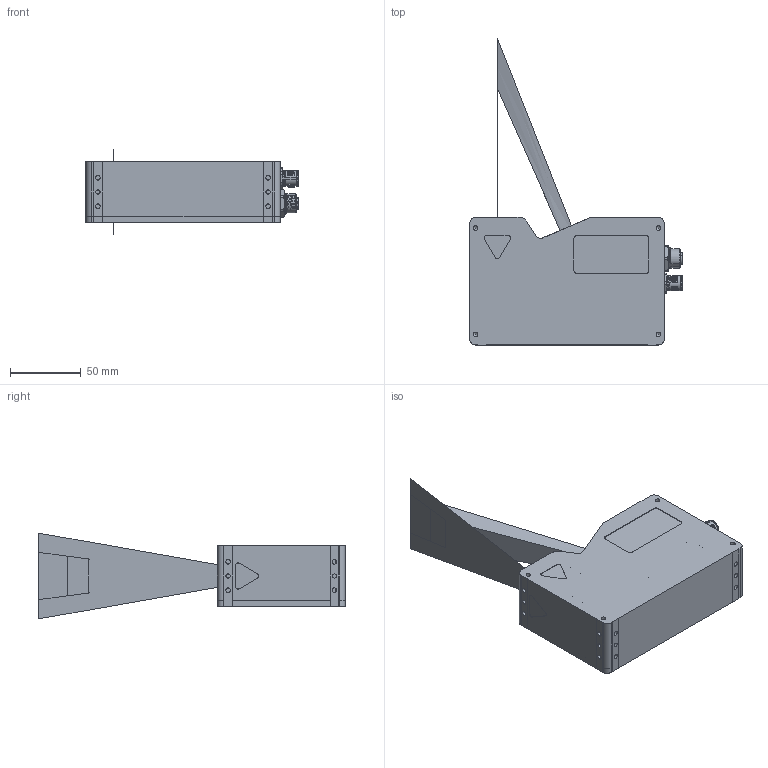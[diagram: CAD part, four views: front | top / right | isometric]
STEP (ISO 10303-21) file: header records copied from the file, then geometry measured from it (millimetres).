
FILE_DESCRIPTION(/* description */ (''),/* implementation_level */ '2;1');
FILE_NAME(/* name */ 'C6-S7-1280-CS-23-29-106-SX-1G-XXX-XX_Public.iam.stp',/* time_stamp */ '2025-06-03T14:37:38+02:00',/* author */ ('AT'),/* organization */ ('Automation Technology GmbH'),/* preprocessor_version */ 'ST-DEVELOPER v20',/* originating_system */ 'Autodesk Inventor 2024',/* authorisation */ '');
FILE_SCHEMA (('AUTOMOTIVE_DESIGN { 1 0 10303 214 3 1 1 }'));
Products named in the file (20): C6-S7-1280-CS-23-29-106-SX-1G-XXX-XX_Public; Screw GB/T 2672 M2,5 x 4; Screw GB/T 2672 M2,5 x 6; 202202010-028; 202202010-002; 202202010-009; 202202010-010; EO: 48-924; Glasscheibe33x1; C6-S7-1280-CS-23-29-106-SX-1G-XXX-XX_Strahlengang; 1292.6001; SACC-DSI-FS-8CON-L180_SCO SH_1553860-01; SACC-DSI-FS-8CON-L180_SCO SH_1553860_Stecker; SACC-DSI-FS-8CON-L180_SCO SH_1553860_Mutter; SACC-DSI-FS-8CON-L180_SCO SH_1553860_Kunststoffeinsatz; SACC-DSI-MS-17CON-M12 SCO SH_1437119-01; SACC-DSI-MS-17CON-M12 SCO SH_1437119_Stecker; SACC-DSI-MS-17CON-M12 SCO SH_1437119_Mutter; SACC-DSI-MS-17CON-M12 SCO SH_1437119_Pins; SACC-DSI-MS-17CON-M12 SCO SH_1437119_Kunststoffeinsatz
Assembly tree (36 placements, depth 3):
  C6-S7-1280-CS-23-29-106-SX-1G-XXX-XX_Public
    Screw GB/T 2672 M2,5 x 4  x8
    Screw GB/T 2672 M2,5 x 6  x7
    202202010-028
    202202010-002
    202202010-009
    202202010-010
    EO: 48-924
    Glasscheibe33x1
    C6-S7-1280-CS-23-29-106-SX-1G-XXX-XX_Strahlengang
    1292.6001  x5
    SACC-DSI-FS-8CON-L180_SCO SH_1553860-01
      SACC-DSI-FS-8CON-L180_SCO SH_1553860_Stecker
      SACC-DSI-FS-8CON-L180_SCO SH_1553860_Mutter
      SACC-DSI-FS-8CON-L180_SCO SH_1553860_Kunststoffeinsatz
    SACC-DSI-MS-17CON-M12 SCO SH_1437119-01
      SACC-DSI-MS-17CON-M12 SCO SH_1437119_Stecker
      SACC-DSI-MS-17CON-M12 SCO SH_1437119_Mutter
      SACC-DSI-MS-17CON-M12 SCO SH_1437119_Pins
      SACC-DSI-MS-17CON-M12 SCO SH_1437119_Kunststoffeinsatz
Bounding box: 149.9 x 216.1 x 60.49 mm (x, y, z)
Volume: 180597.9 mm3; surface area: 121501.7 mm2
Topology: 51 solids, 52 shells, 2268 faces, 5438 edges, 3385 vertices
Faces by surface type: cylinder 950, plane 880, bspline 181, cone 123, torus 85, sphere 49
Full cylindrical faces by diameter (mm): 0.217 x1, 0.6 x25, 0.63 x34, 0.9 x8, 1 x10, 1.1 x17, 1.2 x17, 1.5 x5, 1.567 x7, 1.6 x5, 2 x15, 2.013 x36, 2.208 x15, 2.4 x15, 2.5 x15, 2.6 x12, 2.8 x8, 3 x4, 3.242 x12, 5 x15, 5.5 x15, 7.7 x1, 8.25 x2, 8.3 x1, 8.7 x1, 10.5 x1, 10.7 x3, 10.917 x2, 12 x1, 12.2 x1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
Entity records: 86629 total; most frequent: CARTESIAN_POINT 45537, ORIENTED_EDGE 8184, DIRECTION 8085, EDGE_CURVE 4094, AXIS2_PLACEMENT_3D 2963, VERTEX_POINT 2702, LINE 2159, VECTOR 2159
